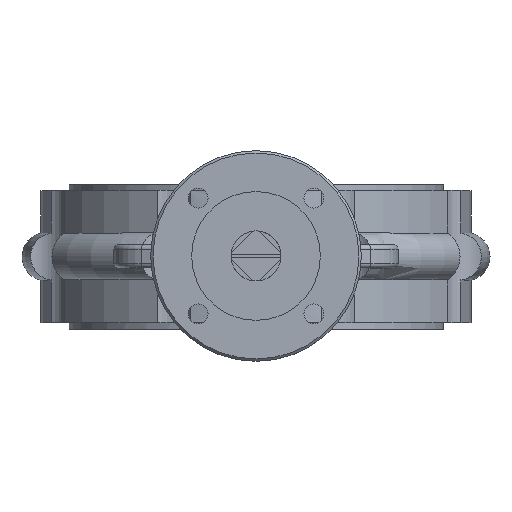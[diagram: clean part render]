
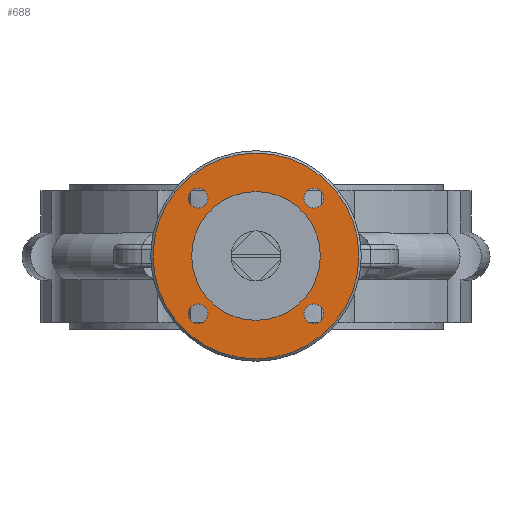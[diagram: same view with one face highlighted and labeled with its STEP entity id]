
A CAD part, top view. The second image highlights one B-rep face of the part: STEP entity #688.
In plain terms, the highlighted planar face has unit normal (0, 0, 1).
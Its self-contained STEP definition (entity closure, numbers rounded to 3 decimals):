
#688 = ADVANCED_FACE( '', ( #1446, #1447, #1448, #1449, #1450, #1451 ), #1452, .T. );
#1446 = FACE_OUTER_BOUND( '', #3132, .T. );
#1447 = FACE_BOUND( '', #3133, .T. );
#1448 = FACE_BOUND( '', #3134, .T. );
#1449 = FACE_BOUND( '', #3135, .T. );
#1450 = FACE_BOUND( '', #3136, .T. );
#1451 = FACE_BOUND( '', #3137, .T. );
#1452 = PLANE( '', #3138 );
#3132 = EDGE_LOOP( '', ( #4830 ) );
#3133 = EDGE_LOOP( '', ( #4831 ) );
#3134 = EDGE_LOOP( '', ( #4832 ) );
#3135 = EDGE_LOOP( '', ( #4833 ) );
#3136 = EDGE_LOOP( '', ( #4834 ) );
#3137 = EDGE_LOOP( '', ( #4835 ) );
#3138 = AXIS2_PLACEMENT_3D( '', #4836, #4837, #4838 );
#4830 = ORIENTED_EDGE( '', *, *, #6154, .T. );
#4831 = ORIENTED_EDGE( '', *, *, #5512, .T. );
#4832 = ORIENTED_EDGE( '', *, *, #6138, .T. );
#4833 = ORIENTED_EDGE( '', *, *, #5807, .T. );
#4834 = ORIENTED_EDGE( '', *, *, #5923, .T. );
#4835 = ORIENTED_EDGE( '', *, *, #6103, .T. );
#4836 = CARTESIAN_POINT( '', ( 0., 30.1, 177. ) );
#4837 = DIRECTION( '', ( 0., 0., 1. ) );
#4838 = DIRECTION( '', ( 1., 0., 0. ) );
#5512 = EDGE_CURVE( '', #6371, #6371, #6372, .T. );
#5807 = EDGE_CURVE( '', #6883, #6883, #6884, .T. );
#5923 = EDGE_CURVE( '', #7052, #7052, #7053, .T. );
#6103 = EDGE_CURVE( '', #7304, #7304, #7305, .T. );
#6138 = EDGE_CURVE( '', #7351, #7351, #7352, .T. );
#6154 = EDGE_CURVE( '', #7373, #7373, #7374, .T. );
#6371 = VERTEX_POINT( '', #7662 );
#6372 = CIRCLE( '', #7663, 27.5 );
#6883 = VERTEX_POINT( '', #10122 );
#6884 = CIRCLE( '', #10123, 4.25 );
#7052 = VERTEX_POINT( '', #10955 );
#7053 = CIRCLE( '', #10956, 4.25 );
#7304 = VERTEX_POINT( '', #12315 );
#7305 = CIRCLE( '', #12316, 4.25 );
#7351 = VERTEX_POINT( '', #12701 );
#7352 = CIRCLE( '', #12702, 4.25 );
#7373 = VERTEX_POINT( '', #12943 );
#7374 = CIRCLE( '', #12944, 44. );
#7662 = CARTESIAN_POINT( '', ( -27.5, 30.1, 177. ) );
#7663 = AXIS2_PLACEMENT_3D( '', #14423, #14424, #14425 );
#10122 = CARTESIAN_POINT( '', ( -20.499, 5.351, 177. ) );
#10123 = AXIS2_PLACEMENT_3D( '', #14793, #14794, #14795 );
#10955 = CARTESIAN_POINT( '', ( 28.999, 54.849, 177. ) );
#10956 = AXIS2_PLACEMENT_3D( '', #14900, #14901, #14902 );
#12315 = CARTESIAN_POINT( '', ( -20.499, 54.849, 177. ) );
#12316 = AXIS2_PLACEMENT_3D( '', #15095, #15096, #15097 );
#12701 = CARTESIAN_POINT( '', ( 28.999, 5.351, 177. ) );
#12702 = AXIS2_PLACEMENT_3D( '', #15135, #15136, #15137 );
#12943 = CARTESIAN_POINT( '', ( 44., 30.1, 177. ) );
#12944 = AXIS2_PLACEMENT_3D( '', #15148, #15149, #15150 );
#14423 = CARTESIAN_POINT( '', ( 0., 30.1, 177. ) );
#14424 = DIRECTION( '', ( 0., 0., -1. ) );
#14425 = DIRECTION( '', ( -1., 0., 0. ) );
#14793 = CARTESIAN_POINT( '', ( -24.749, 5.351, 177. ) );
#14794 = DIRECTION( '', ( 0., 0., -1. ) );
#14795 = DIRECTION( '', ( 1., 0., 0. ) );
#14900 = CARTESIAN_POINT( '', ( 24.749, 54.849, 177. ) );
#14901 = DIRECTION( '', ( 0., 0., -1. ) );
#14902 = DIRECTION( '', ( 1., 0., 0. ) );
#15095 = CARTESIAN_POINT( '', ( -24.749, 54.849, 177. ) );
#15096 = DIRECTION( '', ( 0., 0., -1. ) );
#15097 = DIRECTION( '', ( 1., 0., 0. ) );
#15135 = CARTESIAN_POINT( '', ( 24.749, 5.351, 177. ) );
#15136 = DIRECTION( '', ( 0., 0., -1. ) );
#15137 = DIRECTION( '', ( 1., 0., 0. ) );
#15148 = CARTESIAN_POINT( '', ( 0., 30.1, 177. ) );
#15149 = DIRECTION( '', ( 0., 0., 1. ) );
#15150 = DIRECTION( '', ( 1., 0., 0. ) );
